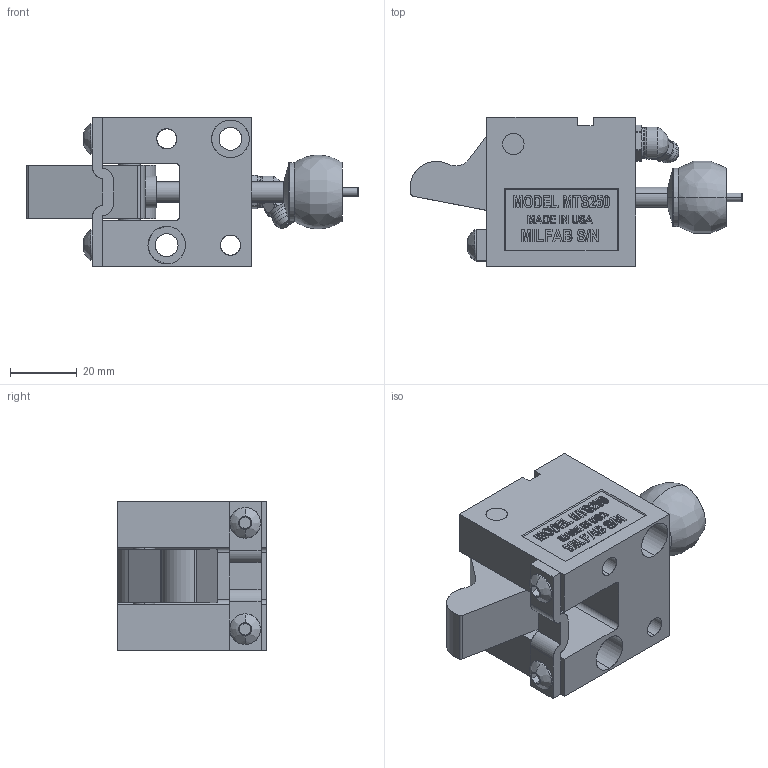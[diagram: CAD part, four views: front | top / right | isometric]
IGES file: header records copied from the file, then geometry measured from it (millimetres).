
Start section: SolidWorks IGES file using analytic representation for surfaces
Global section: file name: Y:\METRIC With OFFSETRIGGER\TOPMOUNT\MTS25045\CLOSED\MTS25045-C.IGS; native system: SolidWorks 2006 by SolidWorks Corporation; preprocessor: SolidWorks 2006 by SolidWorks Corporation; author: Jim; date: 090121.175307; units: inch
Bounding box: 99.17 x 44.45 x 44.45 mm (x, y, z)
Surface area: 29040.3 mm2 (no closed solid volume)
Topology: 0 solids, 0 shells, 594 faces, 7043 edges, 7039 vertices
Faces by surface type: bspline 474, revolution 120
